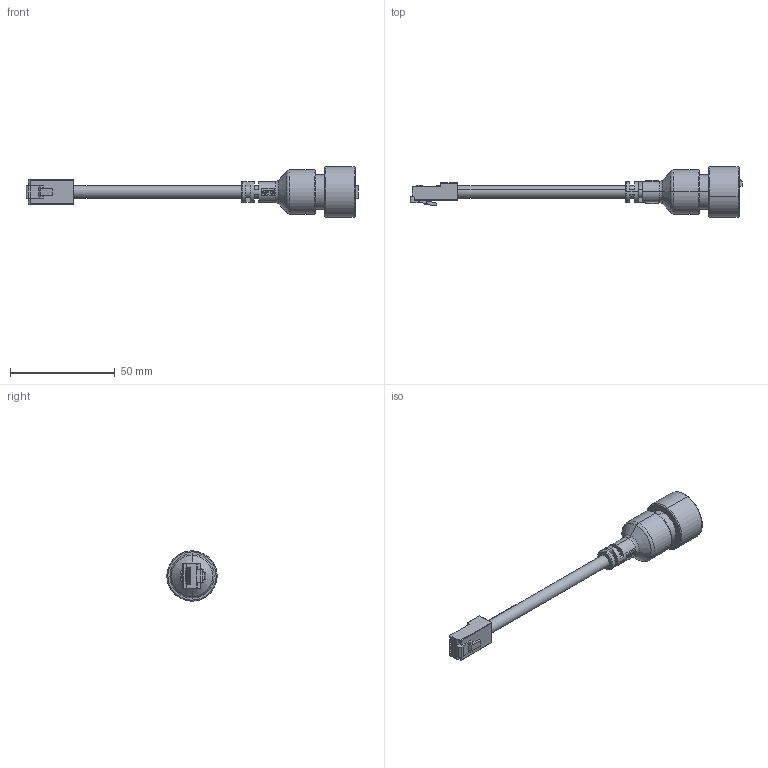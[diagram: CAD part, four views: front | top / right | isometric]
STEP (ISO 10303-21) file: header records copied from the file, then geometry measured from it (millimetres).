
FILE_DESCRIPTION (( 'STEP AP203' ), '1' );
FILE_NAME ('GT225320-06-XX.STEP', '2016-12-21T01:19:41', ( '' ), ( '' ), 'SwSTEP 2.0', 'SolidWorks 2012', '' );
FILE_SCHEMA (( 'CONFIG_CONTROL_DESIGN' ));
Length unit declared in the file: millimetre
Products named in the file (8): GT225320-06-XX; 66225-30140; 55708-00010; 69225-24201_02; 67225-00120; 70225-27101_02; 83001-M0104; 60225-2B101
Assembly tree (8 placements, depth 2):
  GT225320-06-XX
    60225-2B101
    83001-M0104  x2
    70225-27101_02
    67225-00120
    69225-24201_02
    55708-00010
    66225-30140
Bounding box: 158.2 x 24 x 24 mm (x, y, z)
Volume: 19088.8 mm3; surface area: 14974.4 mm2
Topology: 8 solids, 8 shells, 829 faces, 2276 edges, 1467 vertices
Faces by surface type: plane 567, cylinder 194, bspline 28, torus 20, sphere 14, cone 6
Entity records: 20991 total; most frequent: CARTESIAN_POINT 6836, ORIENTED_EDGE 2890, DIRECTION 2630, EDGE_CURVE 1445, LINE 1028, VECTOR 1028, VERTEX_POINT 931, AXIS2_PLACEMENT_3D 801
